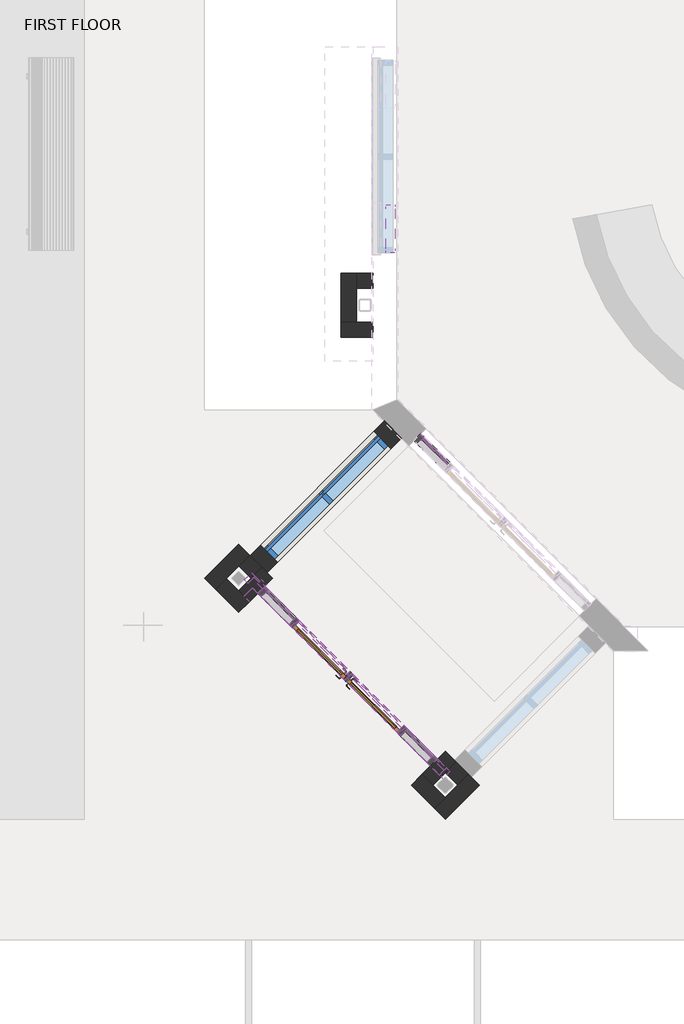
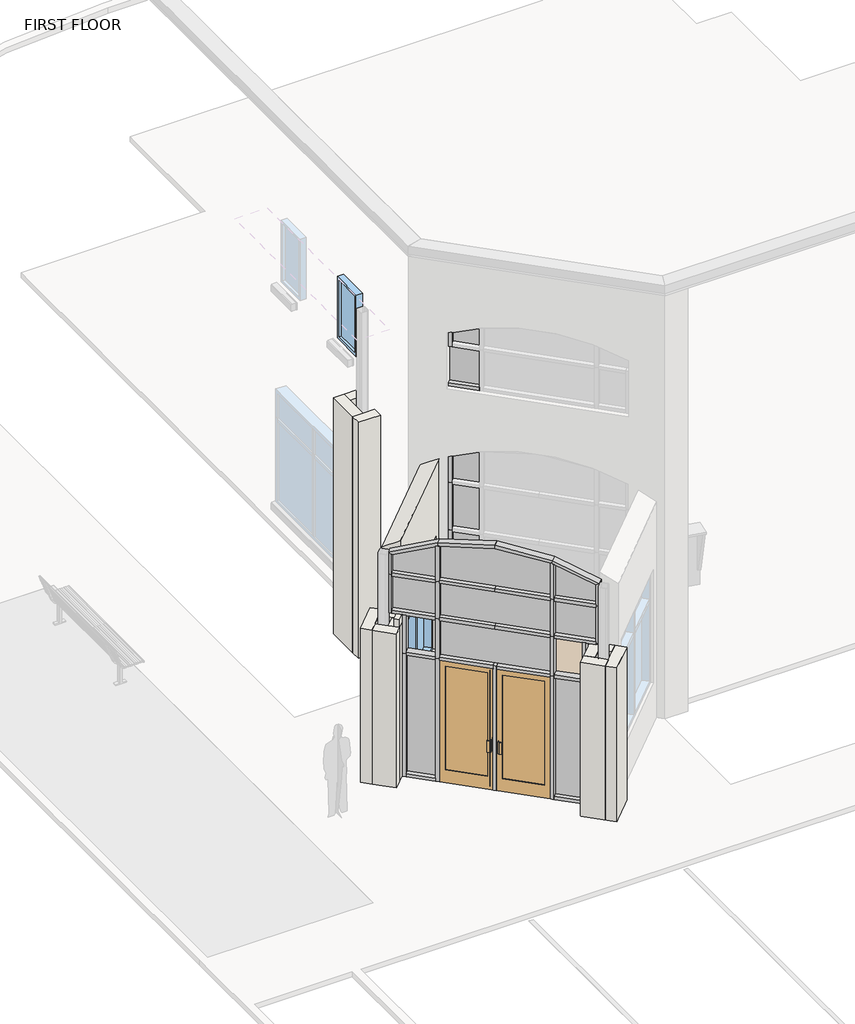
# One storey, part 1 of 7: 43 members, 15 plates, 13 walls, 2 doors, 2 windows.
"""IFC4 building model written with IfcOpenShell, lengths in millimetres."""

from ifc_helpers import new_model, si_unit, frame, origin, place, context, project, spatial, polyline, circle_curve, outline, extrude, faceted_brep, transform, mapped, element, save
from ifc_brep_helpers import plane_surface, cylinder_surface, advanced_brep
from components import curtain_wall_store_front_single_med_stile_store_front_single_c6cdc8f1, curtain_wall_store_front_single_med_stile_store_front_single_1d4f68a2, member_33497832, member_f0fea5a5, member_5535eeb3, member_ee409385, member_57980dff, member_c7d2ba5d, member_623bfa76, member_e557a406, member_0d25082b, member_52f6b921, member_60276a26, member_00b05e59, member_7eb850c3, member_627026b5, member_720a8fcb, member_9ba9524c, member_fa7abc04, member_438d2f6f, member_faeb69b8, member_37fa9b24, member_2cf29476, member_18a184ad, member_8ca7f02a, member_46f5bc36, member_aa870034, member_ba732fc4, member_cd5e3336, member_d7af48b5, member_95b791d6, member_274b5bb4, member_b86862dd, system_panel_glazed_7ef526e5, system_panel_glazed_cf9f2373, system_panel_glazed_625fda9a, system_panel_glazed_4b47f067, system_panel_glazed_9944f469, system_panel_glazed_93fda46f, system_panel_glazed_61f50c52, system_panel_glazed_463703e3, system_panel_glazed_89c3e3a8, system_panel_glazed_499409c8, system_panel_glazed_23cc593c, system_panel_glazed_6117aa94, system_panel_glazed_f2188aaa, system_panel_glazed_1c0335f5, system_panel_glazed_6635dc3f, aluminum_exterior_window_single_3885_e2dbf674, window_5003604b

model = new_model("IFC4")

# Units and contexts
model_context = context("Model", 3, world=origin())
ifc_project = project(units=[si_unit("LENGTHUNIT", "METRE", prefix="MILLI")], contexts=[model_context])

# Site, building, storey
site = spatial("IfcSite", under=ifc_project)
building = spatial("IfcBuilding", under=site)
storey = spatial("IfcBuildingStorey", under=building, Name="FIRST FLOOR", Elevation=30480.0)

# Doors
placement = place(None, origin())
curtain_wall_store_front_single_med_stile_store_front_single_shape = curtain_wall_store_front_single_med_stile_store_front_single_c6cdc8f1(model_context)
element("IfcDoor", 1, ObjectType="Curtain Wall-Store Front-Single Med Stile : Store Front Single Door", at=placement, inside=storey, context=model_context, shape_type="MappedRepresentation", body=[
    mapped(curtain_wall_store_front_single_med_stile_store_front_single_shape, transform((-16797.3324176, -6929.3654032, 30480.0), x_axis=(0.707106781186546, -0.7071067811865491, 0.0), y_axis=(0.7071067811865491, 0.707106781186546, 0.0), z_axis=(0.0, 0.0, 1.0))),
])
curtain_wall_store_front_single_med_stile_store_front_single_2_shape = curtain_wall_store_front_single_med_stile_store_front_single_1d4f68a2(model_context)
element("IfcDoor", 2, ObjectType="Curtain Wall-Store Front-Single Med Stile : Store Front Single Door", at=placement, inside=storey, context=model_context, shape_type="MappedRepresentation", body=[
    mapped(curtain_wall_store_front_single_med_stile_store_front_single_2_shape, transform((-17479.8318828, -6246.8659379, 30480.0), x_axis=(-0.707106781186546, 0.7071067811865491, 0.0), y_axis=(-0.7071067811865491, -0.707106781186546, 0.0), z_axis=(0.0, 0.0, 1.0))),
])

# Members
member_shape = member_33497832(model_context)
element("IfcMember", 3, ObjectType="Rectangular Mullion : 2.5\" x 5\" rectangular", at=placement, inside=storey, context=model_context, shape_type="MappedRepresentation", body=[
    mapped(member_shape, transform((-17161.0327905, -6565.6650302, 32918.4), x_axis=(0.0, 0.0, 1.0), y_axis=(-0.7071067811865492, -0.7071067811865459, 0.0), z_axis=(0.7071067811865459, -0.7071067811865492, 0.0))),
])
element("IfcMember", 4, ObjectType="Rectangular Mullion : 2.5\" x 5\" rectangular", at=placement, inside=storey, context=model_context, shape_type="MappedRepresentation", body=[
    mapped(member_shape, transform((-16478.5333253, -7248.1644954, 32918.4), x_axis=(0.0, 0.0, 1.0), y_axis=(-0.7071067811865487, -0.7071067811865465, 0.0), z_axis=(0.7071067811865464, -0.7071067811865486, 0.0))),
])
member_2_shape = member_f0fea5a5(model_context)
element("IfcMember", 5, ObjectType="Rectangular Mullion : 2.5\" x 5\" rectangular", at=placement, inside=storey, context=model_context, shape_type="MappedRepresentation", body=[
    mapped(member_2_shape, transform((-16456.082685, -7270.6151358, 30480.0), x_axis=(0.707106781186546, -0.7071067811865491, 0.0), y_axis=(-0.7071067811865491, -0.707106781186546, 0.0), z_axis=(0.0, 0.0, -1.0))),
])
element("IfcMember", 6, ObjectType="Rectangular Mullion : 2.5\" x 5\" rectangular", at=placement, inside=storey, context=model_context, shape_type="MappedRepresentation", body=[
    mapped(member_2_shape, transform((-17821.0816154, -5905.6162053, 30480.0), x_axis=(0.707106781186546, -0.7071067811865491, 0.0), y_axis=(-0.7071067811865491, -0.707106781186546, 0.0), z_axis=(0.0, 0.0, -1.0))),
])
member_3_shape = member_5535eeb3(model_context)
element("IfcMember", 7, ObjectType="Rectangular Mullion : 2.5\" x 5\" rectangular", at=placement, inside=storey, context=model_context, shape_type="MappedRepresentation", body=[
    mapped(member_3_shape, transform((-16217.3167265, -3601.391339, 30480.0), x_axis=(0.0, 0.0, -1.0), y_axis=(-0.7071067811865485, -0.7071067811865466, 0.0), z_axis=(-0.7071067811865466, 0.7071067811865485, 0.0))),
])
member_4_shape = member_ee409385(model_context)
element("IfcMember", 8, ObjectType="Rectangular Mullion : 2.5\" x 5\" rectangular", at=placement, inside=storey, context=model_context, shape_type="MappedRepresentation", body=[
    mapped(member_4_shape, transform((-16262.2180071, -3556.4900584, 32918.4), x_axis=(-0.707106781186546, 0.7071067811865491, 0.0), y_axis=(-0.7071067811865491, -0.707106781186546, 0.0), z_axis=(0.0, 0.0, 1.0))),
])
element("IfcMember", 9, ObjectType="Rectangular Mullion : 2.5\" x 5\" rectangular", at=placement, inside=storey, context=model_context, shape_type="MappedRepresentation", body=[
    mapped(member_4_shape, transform((-18239.6147633, -5487.0830574, 32918.4), x_axis=(-0.707106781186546, 0.7071067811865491, 0.0), y_axis=(-0.7071067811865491, -0.707106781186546, 0.0), z_axis=(0.0, 0.0, 1.0))),
])
member_5_shape = member_57980dff(model_context)
element("IfcMember", 10, ObjectType="Rectangular Mullion : 2.5\" x 5\" rectangular", at=placement, inside=storey, context=model_context, shape_type="MappedRepresentation", body=[
    mapped(member_5_shape, transform((-17138.5821502, -6588.1156705, 30480.0), x_axis=(0.707106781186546, -0.7071067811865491, 0.0), y_axis=(-0.7071067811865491, -0.707106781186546, 0.0), z_axis=(0.0, 0.0, -1.0))),
])
element("IfcMember", 11, ObjectType="Rectangular Mullion : 2.5\" x 5\" rectangular", at=placement, inside=storey, context=model_context, shape_type="MappedRepresentation", body=[
    mapped(member_4_shape, transform((-16053.719351, -7672.9784698, 30480.0), x_axis=(0.707106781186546, -0.7071067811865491, 0.0), y_axis=(-0.7071067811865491, -0.707106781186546, 0.0), z_axis=(0.0, 0.0, -1.0))),
])
member_6_shape = member_c7d2ba5d(model_context)
element("IfcMember", 12, ObjectType="Rectangular Mullion : 2.5\" x 5\" rectangular", at=placement, inside=storey, context=model_context, shape_type="MappedRepresentation", body=[
    mapped(member_6_shape, transform((-17138.5821502, -6588.1156705, 34442.4), x_axis=(0.0, 0.0, 1.0), y_axis=(-0.7071067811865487, -0.7071067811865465, 0.0), z_axis=(0.7071067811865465, -0.7071067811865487, 0.0))),
])
element("IfcMember", 13, ObjectType="Rectangular Mullion : 2.5\" x 5\" rectangular", at=placement, inside=storey, context=model_context, shape_type="MappedRepresentation", body=[
    mapped(member_6_shape, transform((-17138.5821502, -6588.1156705, 33705.8), x_axis=(0.0, 0.0, 1.0), y_axis=(-0.7071067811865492, -0.7071067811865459, 0.0), z_axis=(0.7071067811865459, -0.7071067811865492, 0.0))),
])
element("IfcMember", 14, ObjectType="Rectangular Mullion : 2.5\" x 5\" rectangular", at=placement, inside=storey, context=model_context, shape_type="MappedRepresentation", body=[
    mapped(member_6_shape, transform((-16478.5333253, -7248.1644954, 34442.4), x_axis=(0.0, 0.0, 1.0), y_axis=(-0.7071067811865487, -0.7071067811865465, 0.0), z_axis=(0.7071067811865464, -0.7071067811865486, 0.0))),
])
element("IfcMember", 15, ObjectType="Rectangular Mullion : 2.5\" x 5\" rectangular", at=placement, inside=storey, context=model_context, shape_type="MappedRepresentation", body=[
    mapped(member_6_shape, transform((-16478.5333253, -7248.1644954, 33705.8), x_axis=(0.0, 0.0, 1.0), y_axis=(-0.7071067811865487, -0.7071067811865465, 0.0), z_axis=(0.7071067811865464, -0.7071067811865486, 0.0))),
])
member_7_shape = member_623bfa76(model_context)
element("IfcMember", 16, ObjectType="Rectangular Mullion : 2.5\" x 5\" rectangular", at=placement, inside=storey, context=model_context, shape_type="MappedRepresentation", body=[
    mapped(member_7_shape, transform((-16262.2180071, -3556.4900584, 33502.6), x_axis=(-0.707106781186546, 0.7071067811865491, 0.0), y_axis=(-0.7071067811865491, -0.707106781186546, 0.0), z_axis=(0.0, 0.0, 1.0))),
])
member_8_shape = member_e557a406(model_context)
element("IfcMember", 17, ObjectType="Rectangular Mullion : 2.5\" x 5\" rectangular", at=placement, inside=storey, context=model_context, shape_type="MappedRepresentation", body=[
    mapped(member_8_shape, transform((-16262.2180071, -3556.4900584, 34442.4), x_axis=(-0.707106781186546, 0.7071067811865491, 0.0), y_axis=(-0.7071067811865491, -0.707106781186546, 0.0), z_axis=(0.0, 0.0, 1.0))),
])
member_9_shape = member_0d25082b(model_context)
element("IfcMember", 18, ObjectType="Rectangular Mullion : 2.5\" x 5\" rectangular", at=placement, inside=storey, context=model_context, shape_type="MappedRepresentation", body=[
    mapped(member_9_shape, transform((-16262.2180071, -3556.4900584, 35006.8677208), x_axis=(-0.707106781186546, 0.7071067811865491, 0.0), y_axis=(-0.7071067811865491, -0.707106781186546, 0.0), z_axis=(0.0, 0.0, 1.0))),
])
member_10_shape = member_52f6b921(model_context)
element("IfcMember", 19, ObjectType="Rectangular Mullion : 2.5\" x 5\" rectangular", at=placement, inside=storey, context=model_context, shape_type="MappedRepresentation", body=[
    mapped(member_10_shape, transform((-17843.5322557, -5883.165565, 32918.4), x_axis=(0.0, 0.0, 1.0), y_axis=(-0.7071067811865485, -0.7071067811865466, 0.0), z_axis=(0.7071067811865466, -0.7071067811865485, 0.0))),
])
member_11_shape = member_60276a26(model_context)
element("IfcMember", 20, ObjectType="Rectangular Mullion : 2.5\" x 5\" rectangular", at=placement, inside=storey, context=model_context, shape_type="MappedRepresentation", body=[
    mapped(member_11_shape, transform((-16098.6206316, -7628.0771892, 32918.4), x_axis=(0.0, 0.0, 1.0), y_axis=(-0.7071067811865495, -0.7071067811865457, 0.0), z_axis=(0.7071067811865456, -0.7071067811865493, 0.0))),
])
member_12_shape = member_00b05e59(model_context)
element("IfcMember", 21, ObjectType="Rectangular Mullion : 2.5\" x 5\" rectangular", at=placement, inside=storey, context=model_context, shape_type="MappedRepresentation", body=[
    mapped(member_12_shape, transform((-18194.7134827, -5531.984338, 30480.0), x_axis=(0.0, 0.0, -1.0), y_axis=(-0.7071067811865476, -0.7071067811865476, 0.0), z_axis=(-0.7071067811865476, 0.7071067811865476, 0.0))),
])
member_13_shape = member_7eb850c3(model_context)
element("IfcMember", 22, ObjectType="Rectangular Mullion : 2.5\" x 5\" rectangular", at=placement, inside=storey, context=model_context, shape_type="MappedRepresentation", body=[
    mapped(member_13_shape, transform((-16433.6320447, -7293.0657761, 30480.0), x_axis=(0.0, 0.0, -1.0), y_axis=(-0.7071067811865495, -0.7071067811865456, 0.0), z_axis=(-0.7071067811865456, 0.7071067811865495, 0.0))),
])
member_14_shape = member_627026b5(model_context)
element("IfcMember", 23, ObjectType="Rectangular Mullion : 2.5\" x 5\" rectangular", at=placement, inside=storey, context=model_context, shape_type="MappedRepresentation", body=[
    mapped(member_14_shape, transform((-16456.082685, -7270.6151358, 34442.4), x_axis=(0.707106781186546, -0.7071067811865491, 0.0), y_axis=(-0.7071067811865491, -0.707106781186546, 0.0), z_axis=(0.0, 0.0, -1.0))),
])
member_15_shape = member_720a8fcb(model_context)
element("IfcMember", 24, ObjectType="Rectangular Mullion : 2.5\" x 5\" rectangular", at=placement, inside=storey, context=model_context, shape_type="MappedRepresentation", body=[
    mapped(member_15_shape, transform((-17821.0816154, -5905.6162053, 34442.4), x_axis=(0.707106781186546, -0.7071067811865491, 0.0), y_axis=(-0.7071067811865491, -0.707106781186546, 0.0), z_axis=(0.0, 0.0, -1.0))),
])
member_16_shape = member_9ba9524c(model_context)
element("IfcMember", 25, ObjectType="Rectangular Mullion : 2.5\" x 5\" rectangular", at=placement, inside=storey, context=model_context, shape_type="MappedRepresentation", body=[
    mapped(member_16_shape, transform((-17138.5821502, -6588.1156705, 35335.2420044), x_axis=(-0.0008797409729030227, 0.0008797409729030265, 0.9999992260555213), y_axis=(-0.7071067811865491, -0.707106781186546, 0.0), z_axis=(0.7071062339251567, -0.7071062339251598, 0.0012441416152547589))),
])
member_17_shape = member_fa7abc04(model_context)
element("IfcMember", 26, ObjectType="Rectangular Mullion : 2.5\" x 5\" rectangular", at=placement, inside=storey, context=model_context, shape_type="MappedRepresentation", body=[
    mapped(member_17_shape, transform((-16456.082685, -7270.6151358, 35209.163552), x_axis=(0.18248144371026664, -0.18248144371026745, 0.9661268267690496), y_axis=(-0.7071067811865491, -0.707106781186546, 0.0), z_axis=(0.6831548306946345, -0.6831548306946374, -0.2580677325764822))),
])
member_18_shape = member_438d2f6f(model_context)
element("IfcMember", 27, ObjectType="Rectangular Mullion : 2.5\" x 5\" rectangular", at=placement, inside=storey, context=model_context, shape_type="MappedRepresentation", body=[
    mapped(member_18_shape, transform((-17843.5322557, -5883.165565, 34442.4), x_axis=(0.0, 0.0, 1.0), y_axis=(-0.7071067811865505, -0.7071067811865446, 0.0), z_axis=(0.7071067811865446, -0.7071067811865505, 0.0))),
])
element("IfcMember", 28, ObjectType="Rectangular Mullion : 2.5\" x 5\" rectangular", at=placement, inside=storey, context=model_context, shape_type="MappedRepresentation", body=[
    mapped(member_18_shape, transform((-17843.5322557, -5883.165565, 33705.8), x_axis=(0.0, 0.0, 1.0), y_axis=(-0.7071067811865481, -0.7071067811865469, 0.0), z_axis=(0.7071067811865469, -0.7071067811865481, 0.0))),
])
member_19_shape = member_faeb69b8(model_context)
element("IfcMember", 29, ObjectType="Rectangular Mullion : 2.5\" x 5\" rectangular", at=placement, inside=storey, context=model_context, shape_type="MappedRepresentation", body=[
    mapped(member_19_shape, transform((-17821.0816154, -5905.6162053, 35206.676796), x_axis=(-0.18424092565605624, 0.18424092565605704, 0.9654587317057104), y_axis=(-0.7071067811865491, -0.7071067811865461, 0.0), z_axis=(0.68268241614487, -0.6826824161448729, 0.2605560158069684))),
])
member_20_shape = member_37fa9b24(model_context)
element("IfcMember", 30, ObjectType="Rectangular Mullion : 2.5\" x 5\" rectangular", at=placement, inside=storey, context=model_context, shape_type="MappedRepresentation", body=[
    mapped(member_20_shape, transform((-18409.6082054, -5317.0896154, 34869.8916108), x_axis=(-0.707106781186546, 0.7071067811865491, 0.0), y_axis=(-0.7071067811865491, -0.707106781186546, 0.0), z_axis=(0.0, 0.0, 1.0))),
])
member_21_shape = member_2cf29476(model_context)
element("IfcMember", 31, ObjectType="Rectangular Mullion : 2.5\" x 5\" rectangular", at=placement, inside=storey, context=model_context, shape_type="MappedRepresentation", body=[
    mapped(member_21_shape, transform((-15939.8407999, -7786.8570208, 34442.4), x_axis=(0.0, 0.0, 1.0), y_axis=(-0.7071067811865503, -0.7071067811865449, 0.0), z_axis=(0.7071067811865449, -0.7071067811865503, 0.0))),
])
element("IfcMember", 32, ObjectType="Rectangular Mullion : 2.5\" x 5\" rectangular", at=placement, inside=storey, context=model_context, shape_type="MappedRepresentation", body=[
    mapped(member_21_shape, transform((-15939.8407999, -7786.8570208, 33705.8), x_axis=(0.0, 0.0, 1.0), y_axis=(-0.7071067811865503, -0.7071067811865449, 0.0), z_axis=(0.7071067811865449, -0.7071067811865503, 0.0))),
])
member_22_shape = member_18a184ad(model_context)
element("IfcMember", 33, ObjectType="Rectangular Mullion : 2.5\" x 5\" rectangular", at=placement, inside=storey, context=model_context, shape_type="MappedRepresentation", body=[
    mapped(member_22_shape, transform((-16456.082685, -7270.6151358, 32918.4), x_axis=(0.707106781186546, -0.7071067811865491, 0.0), y_axis=(-0.7071067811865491, -0.707106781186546, 0.0), z_axis=(0.0, 0.0, -1.0))),
])
element("IfcMember", 34, ObjectType="Rectangular Mullion : 2.5\" x 5\" rectangular", at=placement, inside=storey, context=model_context, shape_type="MappedRepresentation", body=[
    mapped(member_22_shape, transform((-17821.0816154, -5905.6162053, 32918.4), x_axis=(0.707106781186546, -0.7071067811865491, 0.0), y_axis=(-0.7071067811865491, -0.707106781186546, 0.0), z_axis=(0.0, 0.0, -1.0))),
])
member_23_shape = member_8ca7f02a(model_context)
element("IfcMember", 35, ObjectType="Rectangular Mullion : 2.5\" x 5\" rectangular", at=placement, inside=storey, context=model_context, shape_type="MappedRepresentation", body=[
    mapped(member_23_shape, transform((-16456.082685, -7270.6151358, 33705.8), x_axis=(0.707106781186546, -0.7071067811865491, 0.0), y_axis=(-0.7071067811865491, -0.707106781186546, 0.0), z_axis=(0.0, 0.0, -1.0))),
])
element("IfcMember", 36, ObjectType="Rectangular Mullion : 2.5\" x 5\" rectangular", at=placement, inside=storey, context=model_context, shape_type="MappedRepresentation", body=[
    mapped(member_23_shape, transform((-17821.0816154, -5905.6162053, 33705.8), x_axis=(0.707106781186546, -0.7071067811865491, 0.0), y_axis=(-0.7071067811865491, -0.707106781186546, 0.0), z_axis=(0.0, 0.0, -1.0))),
])
member_24_shape = member_46f5bc36(model_context)
element("IfcMember", 37, ObjectType="Rectangular Mullion : 2.5\" x 5\" rectangular", at=placement, inside=storey, context=model_context, shape_type="MappedRepresentation", body=[
    mapped(member_24_shape, transform((-18409.6082054, -5317.0896154, 34442.4), x_axis=(-0.707106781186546, 0.7071067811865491, 0.0), y_axis=(-0.7071067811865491, -0.707106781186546, 0.0), z_axis=(0.0, 0.0, 1.0))),
])
member_25_shape = member_aa870034(model_context)
element("IfcMember", 38, ObjectType="Rectangular Mullion : 2.5\" x 5\" rectangular", at=placement, inside=storey, context=model_context, shape_type="MappedRepresentation", body=[
    mapped(member_25_shape, transform((-18239.6147633, -5487.0830574, 33680.4), x_axis=(-0.707106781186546, 0.7071067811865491, 0.0), y_axis=(-0.7071067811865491, -0.707106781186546, 0.0), z_axis=(0.0, 0.0, 1.0))),
])
element("IfcMember", 39, ObjectType="Rectangular Mullion : 2.5\" x 5\" rectangular", at=placement, inside=storey, context=model_context, shape_type="MappedRepresentation", body=[
    mapped(member_25_shape, transform((-16053.719351, -7672.9784698, 32918.4), x_axis=(0.707106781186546, -0.7071067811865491, 0.0), y_axis=(-0.7071067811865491, -0.707106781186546, 0.0), z_axis=(0.0, 0.0, -1.0))),
])
member_26_shape = member_ba732fc4(model_context)
element("IfcMember", 40, ObjectType="Rectangular Mullion : 2.5\" x 5\" rectangular", at=placement, inside=storey, context=model_context, shape_type="MappedRepresentation", body=[
    mapped(member_26_shape, transform((-15894.9395193, -7831.7583014, 33680.4), x_axis=(0.707106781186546, -0.7071067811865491, 0.0), y_axis=(-0.7071067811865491, -0.707106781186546, 0.0), z_axis=(0.0, 0.0, -1.0))),
])
member_27_shape = member_cd5e3336(model_context)
element("IfcMember", 41, ObjectType="Rectangular Mullion : 2.5\" x 5\" rectangular", at=placement, inside=storey, context=model_context, shape_type="MappedRepresentation", body=[
    mapped(member_27_shape, transform((-15894.9395193, -7831.7583014, 34442.4), x_axis=(0.707106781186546, -0.7071067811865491, 0.0), y_axis=(-0.7071067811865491, -0.707106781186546, 0.0), z_axis=(0.0, 0.0, -1.0))),
])
member_28_shape = member_d7af48b5(model_context)
element("IfcMember", 42, ObjectType="Rectangular Mullion : 2.5\" x 5\" rectangular", at=placement, inside=storey, context=model_context, shape_type="MappedRepresentation", body=[
    mapped(member_28_shape, transform((-15894.9395193, -7831.7583014, 33705.8), x_axis=(0.707106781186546, -0.7071067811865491, 0.0), y_axis=(-0.7071067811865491, -0.707106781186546, 0.0), z_axis=(0.0, 0.0, -1.0))),
])
member_29_shape = member_95b791d6(model_context)
element("IfcMember", 43, ObjectType="Rectangular Mullion : 2.5\" x 5\" rectangular", at=placement, inside=storey, context=model_context, shape_type="MappedRepresentation", body=[
    mapped(member_29_shape, transform((-16262.2180071, -3556.4900584, 37454.4517124), x_axis=(-0.7071067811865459, 0.7071067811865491, 0.0), y_axis=(-0.7071067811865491, -0.7071067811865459, 0.0), z_axis=(0.0, 0.0, 1.0))),
])
member_30_shape = member_274b5bb4(model_context)
element("IfcMember", 44, ObjectType="Rectangular Mullion : 2.5\" x 5\" rectangular", at=placement, inside=storey, context=model_context, shape_type="MappedRepresentation", body=[
    mapped(member_30_shape, transform((-16262.2180071, -3556.4900584, 36347.4), x_axis=(0.0, 0.0, -1.0), y_axis=(-0.707106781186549, -0.7071067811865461, 0.0), z_axis=(-0.707106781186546, 0.7071067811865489, 0.0))),
])
member_31_shape = member_b86862dd(model_context)
element("IfcMember", 45, ObjectType="Rectangular Mullion : 2.5\" x 5\" rectangular", at=placement, inside=storey, context=model_context, shape_type="MappedRepresentation", body=[
    mapped(member_31_shape, transform((-15894.9395193, -7831.7583014, 34895.987271), x_axis=(0.33323888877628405, -0.33323888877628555, 0.8819884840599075), y_axis=(-0.7071067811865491, -0.707106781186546, 0.0), z_axis=(0.6236600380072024, -0.6236600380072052, -0.4712709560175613))),
])

# Plates
system_panel_glazed_shape = system_panel_glazed_7ef526e5(model_context)
element("IfcPlate", 46, ObjectType="System Panel : Glazed", at=placement, inside=storey, context=model_context, shape_type="MappedRepresentation", body=[
    mapped(system_panel_glazed_shape, transform((-16053.4270523, -3765.2810133, 30543.5), x_axis=(0.707106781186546, -0.7071067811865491, 0.0), y_axis=(0.7071067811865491, 0.707106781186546, 0.0), z_axis=(0.0, 0.0, 1.0))),
])
system_panel_glazed_2_shape = system_panel_glazed_cf9f2373(model_context)
element("IfcPlate", 47, ObjectType="System Panel : Glazed", at=placement, inside=storey, context=model_context, shape_type="MappedRepresentation", body=[
    mapped(system_panel_glazed_2_shape, transform((-16053.4270523, -3765.2810133, 32950.15), x_axis=(0.707106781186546, -0.7071067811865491, 0.0), y_axis=(0.7071067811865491, 0.707106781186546, 0.0), z_axis=(0.0, 0.0, 1.0))),
])
system_panel_glazed_3_shape = system_panel_glazed_625fda9a(model_context)
element("IfcPlate", 48, ObjectType="System Panel : Glazed", at=placement, inside=storey, context=model_context, shape_type="MappedRepresentation", body=[
    mapped(system_panel_glazed_3_shape, transform((-16053.4270523, -3765.2810133, 33534.35), x_axis=(0.707106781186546, -0.7071067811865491, 0.0), y_axis=(0.7071067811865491, 0.707106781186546, 0.0), z_axis=(0.0, 0.0, 1.0))),
])
system_panel_glazed_4_shape = system_panel_glazed_4b47f067(model_context)
element("IfcPlate", 49, ObjectType="System Panel : Glazed", at=placement, inside=storey, context=model_context, shape_type="MappedRepresentation", body=[
    mapped(system_panel_glazed_4_shape, transform((-16053.4270523, -3765.2810133, 34474.15), x_axis=(0.707106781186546, -0.7071067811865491, 0.0), y_axis=(0.7071067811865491, 0.707106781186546, 0.0), z_axis=(0.0, 0.0, 1.0))),
])
system_panel_glazed_5_shape = system_panel_glazed_9944f469(model_context)
element("IfcPlate", 50, ObjectType="System Panel : Glazed", at=placement, inside=storey, context=model_context, shape_type="MappedRepresentation", body=[
    mapped(system_panel_glazed_5_shape, transform((-17138.5821502, -6588.1156705, 34474.15), x_axis=(0.707106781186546, -0.7071067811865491, 0.0), y_axis=(0.7071067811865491, 0.707106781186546, 0.0), z_axis=(0.0, 0.0, 1.0))),
])
system_panel_glazed_6_shape = system_panel_glazed_93fda46f(model_context)
element("IfcPlate", 51, ObjectType="System Panel : Glazed", at=placement, inside=storey, context=model_context, shape_type="MappedRepresentation", body=[
    mapped(system_panel_glazed_6_shape, transform((-16053.4270523, -3765.2810133, 37191.95), x_axis=(0.7071067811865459, -0.7071067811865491, 0.0), y_axis=(0.7071067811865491, 0.7071067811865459, 0.0), z_axis=(0.0, 0.0, 1.0))),
])
system_panel_glazed_7_shape = system_panel_glazed_61f50c52(model_context)
element("IfcPlate", 52, ObjectType="System Panel : Glazed", at=placement, inside=storey, context=model_context, shape_type="MappedRepresentation", body=[
    mapped(system_panel_glazed_7_shape, transform((-18019.1228692, -5707.5749515, 30543.5), x_axis=(0.707106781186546, -0.7071067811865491, 0.0), y_axis=(0.7071067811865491, 0.707106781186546, 0.0), z_axis=(0.0, 0.0, 1.0))),
])
system_panel_glazed_8_shape = system_panel_glazed_463703e3(model_context)
element("IfcPlate", 53, ObjectType="System Panel : Glazed", at=placement, inside=storey, context=model_context, shape_type="MappedRepresentation", body=[
    mapped(system_panel_glazed_8_shape, transform((-16266.1263381, -7460.5714826, 30543.5), x_axis=(0.707106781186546, -0.7071067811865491, 0.0), y_axis=(0.7071067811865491, 0.707106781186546, 0.0), z_axis=(0.0, 0.0, 1.0))),
])
system_panel_glazed_9_shape = system_panel_glazed_89c3e3a8(model_context)
element("IfcPlate", 54, ObjectType="System Panel : Glazed", at=placement, inside=storey, context=model_context, shape_type="MappedRepresentation", body=[
    mapped(system_panel_glazed_9_shape, transform((-18104.1195902, -5622.5782305, 34474.15), x_axis=(0.707106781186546, -0.7071067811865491, 0.0), y_axis=(0.7071067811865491, 0.707106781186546, 0.0), z_axis=(0.0, 0.0, 1.0))),
])
system_panel_glazed_10_shape = system_panel_glazed_499409c8(model_context)
element("IfcPlate", 55, ObjectType="System Panel : Glazed", at=placement, inside=storey, context=model_context, shape_type="MappedRepresentation", body=[
    mapped(system_panel_glazed_10_shape, transform((-16186.7364223, -7539.9613984, 34474.15), x_axis=(0.707106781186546, -0.7071067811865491, 0.0), y_axis=(0.7071067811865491, 0.707106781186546, 0.0), z_axis=(0.0, 0.0, 1.0))),
])
system_panel_glazed_11_shape = system_panel_glazed_23cc593c(model_context)
element("IfcPlate", 56, ObjectType="System Panel : Glazed", at=placement, inside=storey, context=model_context, shape_type="MappedRepresentation", body=[
    mapped(system_panel_glazed_11_shape, transform((-17138.5821502, -6588.1156705, 32950.15), x_axis=(0.707106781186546, -0.7071067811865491, 0.0), y_axis=(0.7071067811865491, 0.707106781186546, 0.0), z_axis=(0.0, 0.0, 1.0))),
])
system_panel_glazed_12_shape = system_panel_glazed_6117aa94(model_context)
element("IfcPlate", 57, ObjectType="System Panel : Glazed", at=placement, inside=storey, context=model_context, shape_type="MappedRepresentation", body=[
    mapped(system_panel_glazed_12_shape, transform((-18104.1195902, -5622.5782305, 33737.55), x_axis=(0.707106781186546, -0.7071067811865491, 0.0), y_axis=(0.7071067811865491, 0.707106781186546, 0.0), z_axis=(0.0, 0.0, 1.0))),
])
system_panel_glazed_13_shape = system_panel_glazed_f2188aaa(model_context)
element("IfcPlate", 58, ObjectType="System Panel : Glazed", at=placement, inside=storey, context=model_context, shape_type="MappedRepresentation", body=[
    mapped(system_panel_glazed_13_shape, transform((-17138.5821502, -6588.1156705, 33737.55), x_axis=(0.707106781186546, -0.7071067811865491, 0.0), y_axis=(0.7071067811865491, 0.707106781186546, 0.0), z_axis=(0.0, 0.0, 1.0))),
])
system_panel_glazed_14_shape = system_panel_glazed_1c0335f5(model_context)
element("IfcPlate", 59, ObjectType="System Panel : Glazed", at=placement, inside=storey, context=model_context, shape_type="MappedRepresentation", body=[
    mapped(system_panel_glazed_14_shape, transform((-16186.7364223, -7539.9613984, 33737.55), x_axis=(0.707106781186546, -0.7071067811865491, 0.0), y_axis=(0.7071067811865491, 0.707106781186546, 0.0), z_axis=(0.0, 0.0, 1.0))),
])
system_panel_glazed_15_shape = system_panel_glazed_6635dc3f(model_context)
element("IfcPlate", 60, ObjectType="System Panel : Glazed", at=placement, inside=storey, context=model_context, shape_type="MappedRepresentation", body=[
    mapped(system_panel_glazed_15_shape, transform((-16075.8776926, -3742.830373, 36410.9), x_axis=(0.7071067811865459, -0.7071067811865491, 0.0), y_axis=(0.7071067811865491, 0.7071067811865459, 0.0), z_axis=(0.0, 0.0, 1.0))),
])

# Walls
element("IfcWall", 61, ObjectType="Exterior - Brick on Mtl. Stud", at=placement, inside=storey, context=model_context, shape_type="AdvancedBrep", body=[
    advanced_brep(
    [(-18167.7727144, -5271.5569105, 30480.0), (-16465.2250082, -3569.0092043, 30480.0), (-16465.2250082, -3569.0092043, 34942.9227686), (-18167.7727144, -5271.5569105, 34942.9227686), (-16598.0783716, -3701.8625677, 33528.0), (-16598.0783716, -3701.8625677, 31292.8), (-18034.919351, -5138.7035471, 31292.8), (-18034.919351, -5138.7035471, 33528.0), (-18383.2988613, -5056.0307636, 30480.0), (-18383.2988613, -5056.0307636, 34772.3495615), (-16680.7511551, -3353.4830574, 34772.3495615), (-16680.7511551, -3353.4830574, 30480.0), (-16813.6045185, -3486.3364208, 33528.0), (-18250.4454979, -4923.1774002, 33528.0), (-18250.4454979, -4923.1774002, 31292.8), (-16813.6045185, -3486.3364208, 31292.8)],
    [
        (0, 1),
        (1, 2),
        (2, 3),
        (3, 0),
        (4, 5),
        (5, 6),
        (6, 7),
        (7, 4),
        (8, 9),
        (9, 10),
        (10, 11),
        (11, 8),
        (12, 13),
        (13, 14),
        (14, 15),
        (15, 12),
        (0, 8),
        (11, 1),
        (10, 2, circle_curve(frame((-15289.0758104, -4745.1584021, 31613.0859867), z_axis=(0.707106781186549, 0.7071067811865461, 0.0), x_axis=(0.7071067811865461, -0.707106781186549, 0.0)), 3722.1588985)),
        (3, 9, circle_curve(frame((-16991.6235166, -6447.7061083, 31613.0859867), z_axis=(-0.707106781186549, -0.7071067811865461, 0.0), x_axis=(0.7071067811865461, -0.707106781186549, 0.0)), 3722.1588985)),
        (4, 12),
        (15, 5),
        (14, 6),
        (13, 7),
    ],
    [
        plane_surface(frame((-18167.7727144, -5271.5569105, 30480.0), z_axis=(0.7071067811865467, -0.7071067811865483, 0.0), x_axis=(0.7071067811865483, 0.7071067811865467, 0.0))),
        plane_surface(frame((-18383.2988613, -5056.0307636, 30480.0), z_axis=(-0.7071067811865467, 0.7071067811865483, 0.0), x_axis=(-0.7071067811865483, -0.7071067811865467, 0.0))),
        plane_surface(frame((-18236.2471673, -5340.0313634, 30480.0), z_axis=(0.0, 0.0, -1.0), x_axis=(-0.7071067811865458, 0.7071067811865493, 0.0))),
        plane_surface(frame((-15322.7537163, -4711.4804962, 30114.24), z_axis=(0.7071067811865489, 0.7071067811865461, 0.0), x_axis=(-0.7071067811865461, 0.7071067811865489, 0.0))),
        plane_surface(frame((-18239.6147633, -5199.7148615, 30480.0), z_axis=(-0.7071067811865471, -0.7071067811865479, 0.0), x_axis=(-0.7071067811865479, 0.7071067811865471, 0.0))),
        cylinder_surface(frame((-15289.0758104, -4745.1584021, 31613.0859867), z_axis=(0.707106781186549, 0.7071067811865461, 0.0), x_axis=(0.7071067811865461, -0.707106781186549, 0.0)), 3722.1588985),
        plane_surface(frame((-16598.0783716, -3701.8625677, 33528.0), z_axis=(-0.7071067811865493, -0.7071067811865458, 0.0), x_axis=(-0.7071067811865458, 0.7071067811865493, 0.0))),
        plane_surface(frame((-16598.0783716, -3701.8625677, 31292.8), z_axis=(0.0, 0.0, 1.0000000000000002), x_axis=(-0.7071067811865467, 0.7071067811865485, 0.0))),
        plane_surface(frame((-18034.919351, -5138.7035471, 31292.8), z_axis=(0.7071067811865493, 0.7071067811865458, 0.0), x_axis=(-0.7071067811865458, 0.7071067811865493, 0.0))),
        plane_surface(frame((-18034.919351, -5138.7035471, 33528.0), z_axis=(0.0, 0.0, -1.0), x_axis=(-0.7071067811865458, 0.7071067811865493, 0.0))),
    ],
    [
        (0, [[1, 2, 3, 4], [5, 6, 7, 8]]),
        (1, [[9, 10, 11, 12], [13, 14, 15, 16]]),
        (2, [[-1, 17, -12, 18]]),
        (3, [[-2, -18, -11, 19]]),
        (4, [[-4, 20, -9, -17]]),
        (5, [[-3, -19, -10, -20]]),
        (6, [[-5, 21, -16, 22]]),
        (7, [[-6, -22, -15, 23]]),
        (8, [[-7, -23, -14, 24]]),
        (9, [[-8, -24, -13, -21]]),
    ],
),
])
element("IfcWall", 62, ObjectType="Exterior - Brick on Mtl. Stud", at=placement, inside=storey, context=model_context, shape_type="SweptSolid", body=[
    extrude(outline(polyline([(-18458.5085063, -5569.0278945), (-18242.9823594, -5353.5017476), (-18174.5079065, -5421.9762005), (-18390.0340534, -5637.5023474), (-18458.5085063, -5569.0278945)])), frame((0.0, 0.0, 33528.0), z_axis=(0.0, 0.0, 1.0), x_axis=(1.0, 0.0, 0.0)), (0.0, 0.0, 1.0), 152.4),
])
element("IfcWall", 63, ObjectType="Generic - 8\" Masonry", at=placement, inside=storey, context=model_context, shape_type="Brep", body=[
    faceted_brep([(-15615.9318651, -7823.3977598, 30480.0), (-15752.8807709, -7960.3466657, 30480.0), (-15910.035253, -8117.5011478, 30480.0), (-16046.9841589, -8254.4500536, 30480.0), (-16046.9841589, -8254.4500536, 33528.0), (-15910.035253, -8117.5011478, 33528.0), (-15752.8807709, -7960.3466657, 33528.0), (-15615.9318651, -7823.3977598, 33528.0), (-15478.9829592, -7960.3466657, 30480.0), (-15478.9829592, -7960.3466657, 33528.0), (-15910.035253, -8391.3989595, 33528.0), (-15910.035253, -8391.3989595, 30480.0)], [[[0, 1, 2, 3, 4, 5, 6, 7]], [[8, 9, 10, 11]], [[3, 2, 1, 0, 8, 11]], [[7, 6, 5, 4, 10, 9]], [[0, 7, 9, 8]], [[4, 3, 11, 10]]]),
])
element("IfcWall", 64, ObjectType="Generic - 8\" Masonry", at=placement, inside=storey, context=model_context, shape_type="Brep", body=[
    faceted_brep([(-15910.035253, -8117.5011478, 30480.0), (-16067.1897351, -7960.3466657, 30480.0), (-16204.138641, -7823.3977598, 30480.0), (-16204.138641, -7823.3977598, 33528.0), (-16067.1897351, -7960.3466657, 33528.0), (-15910.035253, -8117.5011478, 33528.0), (-16046.9841589, -8254.4500536, 30480.0), (-16046.9841589, -8254.4500536, 33528.0), (-16341.0875468, -7960.3466657, 33528.0), (-16341.0875468, -7960.3466657, 30480.0)], [[[0, 1, 2, 3, 4, 5]], [[6, 7, 8, 9]], [[2, 1, 0, 6, 9]], [[5, 4, 3, 8, 7]], [[3, 2, 9, 8]], [[0, 5, 7, 6]]]),
])
element("IfcWall", 65, ObjectType="Generic - 8\" Masonry", at=placement, inside=storey, context=model_context, shape_type="Brep", body=[
    faceted_brep([(-16067.1897351, -7960.3466657, 30480.0), (-15910.035253, -7803.1921835, 30480.0), (-15773.0863472, -7666.2432777, 30480.0), (-15773.0863472, -7666.2432777, 33528.0), (-15910.035253, -7803.1921835, 33528.0), (-16067.1897351, -7960.3466657, 33528.0), (-16204.138641, -7823.3977598, 30480.0), (-16204.138641, -7823.3977598, 33528.0), (-15910.035253, -7529.2943718, 33528.0), (-15910.035253, -7529.2943718, 30480.0)], [[[0, 1, 2, 3, 4, 5]], [[6, 7, 8, 9]], [[2, 1, 0, 6, 9]], [[3, 2, 9, 8]], [[5, 4, 3, 8, 7]], [[0, 5, 7, 6]]]),
])
element("IfcWall", 66, ObjectType="Generic - 8\" Masonry", at=placement, inside=storey, context=model_context, shape_type="SweptSolid", body=[
    extrude(outline(polyline([(-15752.8807709, -7960.3466657), (-15910.035253, -7803.1921835), (-15773.0863472, -7666.2432777), (-15615.9318651, -7823.3977598), (-15752.8807709, -7960.3466657)])), frame((0.0, 0.0, 30480.0), z_axis=(0.0, 0.0, 1.0), x_axis=(1.0, 0.0, 0.0)), (0.0, 0.0, 1.0), 3048.0),
])
element("IfcWall", 67, ObjectType="Generic - 8\" Masonry", at=placement, inside=storey, context=model_context, shape_type="Brep", body=[
    faceted_brep([(-18526.9829592, -4912.3466657, 30480.0), (-18958.035253, -5343.3989595, 30480.0), (-18958.035253, -5343.3989595, 33528.0), (-18526.9829592, -4912.3466657, 33528.0), (-18390.0340534, -5049.2955715, 30480.0), (-18390.0340534, -5049.2955715, 33528.0), (-18684.1374413, -5343.3989595, 33528.0), (-18821.0863472, -5480.3478653, 33528.0), (-18821.0863472, -5480.3478653, 30480.0), (-18684.1374413, -5343.3989595, 30480.0), (-18526.9829592, -5186.2444774, 30480.0)], [[[0, 1, 2, 3]], [[4, 5, 6, 7, 8, 9, 10]], [[1, 0, 4, 10, 9, 8]], [[3, 2, 7, 6, 5]], [[0, 3, 5, 4]], [[2, 1, 8, 7]]]),
])
element("IfcWall", 68, ObjectType="Generic - 8\" Masonry", at=placement, inside=storey, context=model_context, shape_type="Brep", body=[
    faceted_brep([(-18821.0863472, -5480.3478653, 30480.0), (-18526.9829592, -5774.4512533, 30480.0), (-18526.9829592, -5774.4512533, 33528.0), (-18821.0863472, -5480.3478653, 33528.0), (-18684.1374413, -5343.3989595, 30480.0), (-18684.1374413, -5343.3989595, 33528.0), (-18526.9829592, -5500.5534416, 33528.0), (-18390.0340534, -5637.5023474, 33528.0), (-18390.0340534, -5637.5023474, 30480.0), (-18526.9829592, -5500.5534416, 30480.0)], [[[0, 1, 2, 3]], [[4, 5, 6, 7, 8, 9]], [[1, 0, 4, 9, 8]], [[3, 2, 7, 6, 5]], [[2, 1, 8, 7]], [[0, 3, 5, 4]]]),
])
element("IfcWall", 69, ObjectType="Generic - 8\" Masonry", at=placement, inside=storey, context=model_context, shape_type="Brep", body=[
    faceted_brep([(-18390.0340534, -5637.5023474, 30480.0), (-18095.9306654, -5343.3989595, 30480.0), (-18095.9306654, -5343.3989595, 33528.0), (-18390.0340534, -5637.5023474, 33528.0), (-18526.9829592, -5500.5534416, 30480.0), (-18526.9829592, -5500.5534416, 33528.0), (-18369.8284771, -5343.3989595, 33528.0), (-18232.8795712, -5206.4500536, 33528.0), (-18232.8795712, -5206.4500536, 30480.0), (-18369.8284771, -5343.3989595, 30480.0), (-18164.4051183, -5274.9245065, 33528.0)], [[[0, 1, 2, 3]], [[4, 5, 6, 7, 8, 9]], [[1, 0, 4, 9, 8]], [[2, 1, 8, 7, 10]], [[3, 2, 10, 7, 6, 5]], [[0, 3, 5, 4]]]),
])
element("IfcWall", 70, ObjectType="Generic - 8\" Masonry", at=placement, inside=storey, context=model_context, shape_type="Brep", body=[
    faceted_brep([(-18232.8795712, -5206.4500536, 30480.0), (-18390.0340534, -5049.2955715, 30480.0), (-18390.0340534, -5049.2955715, 33528.0), (-18390.0340534, -5049.2955715, 33544.1235608), (-18164.4051183, -5274.9245065, 33544.1235608), (-18164.4051183, -5274.9245065, 33528.0), (-18232.8795712, -5206.4500536, 33528.0), (-18369.8284771, -5343.3989595, 30480.0), (-18369.8284771, -5343.3989595, 33528.0), (-18301.3540242, -5411.8734124, 33528.0), (-18301.3540242, -5411.8734124, 33544.1235608), (-18526.9829592, -5186.2444774, 33544.1235608), (-18526.9829592, -5186.2444774, 30480.0)], [[[0, 1, 2, 3, 4, 5, 6]], [[7, 8, 9, 10, 11, 12]], [[1, 0, 7, 12]], [[4, 3, 11, 10]], [[5, 4, 10, 9]], [[5, 9, 8, 6]], [[0, 6, 8, 7]], [[3, 2, 1, 12, 11]]]),
])
element("IfcWall", 71, ObjectType="Generic - 8\" Masonry", at=placement, inside=storey, context=model_context, shape_type="Brep", body=[
    faceted_brep([(-16824.435253, -2101.7239595, 30480.0), (-17037.160253, -2101.7239595, 30480.0), (-17230.835253, -2101.7239595, 30480.0), (-17230.835253, -2101.7239595, 35153.6), (-17037.160253, -2101.7239595, 35153.6), (-16824.435253, -2101.7239595, 35153.6), (-16824.435253, -2295.3989595, 30480.0), (-16824.435253, -2295.3989595, 35153.6), (-17230.835253, -2295.3989595, 35153.6), (-17230.835253, -2295.3989595, 30480.0)], [[[0, 1, 2, 3, 4, 5]], [[6, 7, 8, 9]], [[2, 1, 0, 6, 9]], [[5, 4, 3, 8, 7]], [[0, 5, 7, 6]], [[3, 2, 9, 8]]]),
])
element("IfcWall", 72, ObjectType="Generic - 8\" Masonry", at=placement, inside=storey, context=model_context, shape_type="Brep", body=[
    faceted_brep([(-17037.160253, -2101.7239595, 30480.0), (-17037.160253, -1676.2739595, 30480.0), (-17037.160253, -1482.5989595, 30480.0), (-17037.160253, -1482.5989595, 35153.6), (-17037.160253, -1676.2739595, 35153.6), (-17037.160253, -2101.7239595, 35153.6), (-17230.835253, -2101.7239595, 30480.0), (-17230.835253, -2101.7239595, 35153.6), (-17230.835253, -1482.5989595, 35153.6), (-17230.835253, -1482.5989595, 30480.0)], [[[0, 1, 2, 3, 4, 5]], [[6, 7, 8, 9]], [[2, 1, 0, 6, 9]], [[5, 4, 3, 8, 7]], [[3, 2, 9, 8]], [[0, 5, 7, 6]]]),
])
element("IfcWall", 73, ObjectType="Generic - 8\" Masonry", at=placement, inside=storey, context=model_context, shape_type="SweptSolid", body=[
    extrude(outline(polyline([(-16824.435253, -1676.2739595), (-17037.160253, -1676.2739595), (-17037.160253, -1482.5989595), (-16824.435253, -1482.5989595), (-16824.435253, -1676.2739595)])), frame((0.0, 0.0, 30480.0), z_axis=(0.0, 0.0, 1.0), x_axis=(1.0, 0.0, 0.0)), (0.0, 0.0, 1.0), 4673.6),
])

# Windows
aluminum_exterior_window_single_3885_shape = aluminum_exterior_window_single_3885_e2dbf674(model_context)
element("IfcWindow", 74, ObjectType="Aluminum_Exterior_Window_-_Single_3885 : 24\"W. x 48\"H.", at=placement, inside=storey, context=model_context, shape_type="MappedRepresentation", body=[
    mapped(aluminum_exterior_window_single_3885_shape, transform((-16698.5927777, -771.4040395, 34594.8), x_axis=(0.0, -1.0, 0.0), y_axis=(1.0, 0.0, 0.0), z_axis=(0.0, 0.0, 1.0))),
])
window_shape = window_5003604b(model_context)
element("IfcWindow", 75, ObjectType="Storefront Window : 6'-8\"x7'-4\"", at=placement, inside=storey, context=model_context, shape_type="MappedRepresentation", body=[
    mapped(window_shape, transform((-17089.3915342, -4031.5311202, 30480.0), x_axis=(0.7071067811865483, 0.7071067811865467, 0.0), y_axis=(-0.7071067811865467, 0.7071067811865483, 0.0), z_axis=(0.0, 0.0, 1.0))),
])

save(model, "model.ifc")
